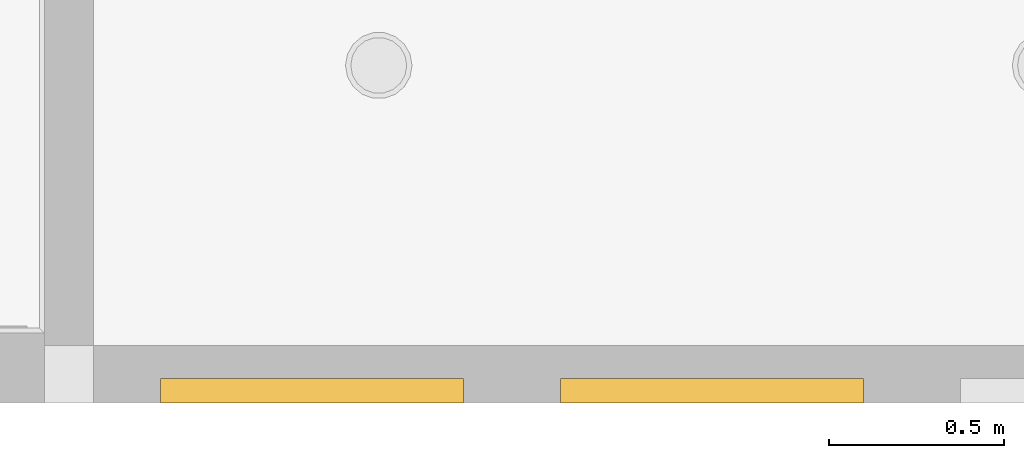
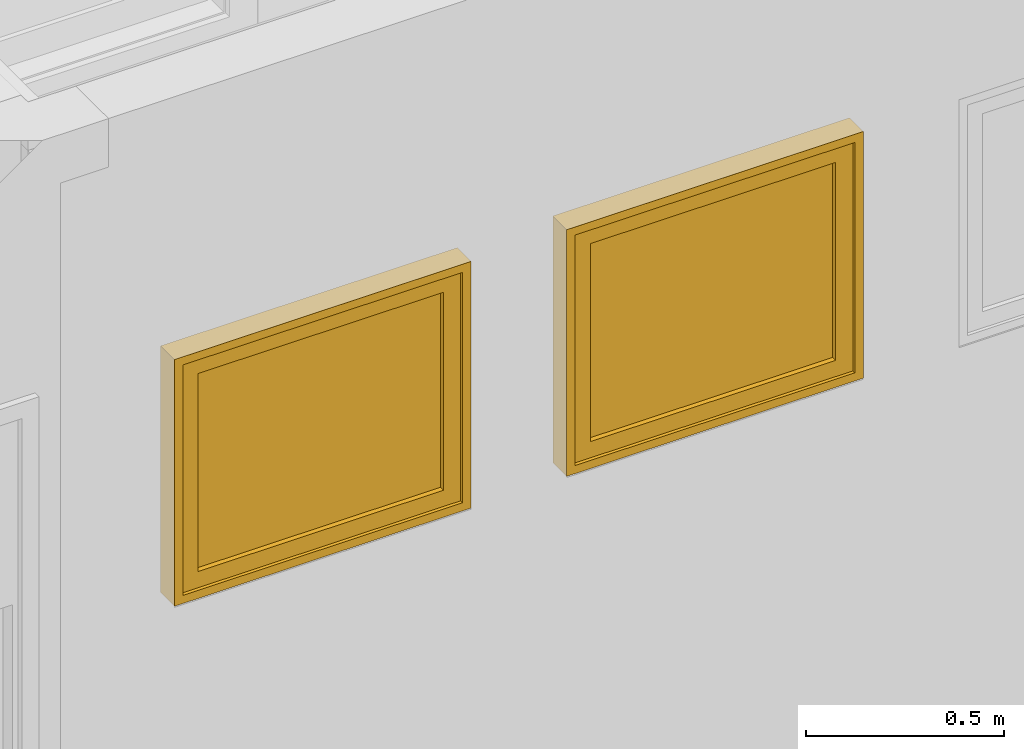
# One storey, part 31 of 77: 2 windows.
"""IFC2X3 building model written with IfcOpenShell, lengths in inches."""

from ifc_helpers import new_model, entity, si_unit, converted_unit, derived_unit, money_unit, direction, frame, origin_with_axes, place, context, subcontext, project, spatial, open_shell, faceted_brep, surface_model, source, transform, mapped, type_object, element, save


model = new_model("IFC2X3")

# Units and contexts
model_context = context("Model", 3, precision=0.000393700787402, world=origin_with_axes(), true_north=direction((0.0, 1.0)))
body_context = subcontext(model_context, "Body", "Model", "MODEL_VIEW")
ifc_project = project(units=[converted_unit("LENGTHUNIT", "INCH", entity("IfcPositiveLengthMeasure", 0.0254), si_unit("LENGTHUNIT", "METRE"), dimensions=[1, 0, 0, 0, 0, 0, 0]), converted_unit("AREAUNIT", "SQUARE_FOOT", entity("IfcPositiveLengthMeasure", 0.09290304), si_unit("AREAUNIT", "SQUARE_METRE"), dimensions=[2, 0, 0, 0, 0, 0, 0]), si_unit("PLANEANGLEUNIT", "RADIAN"), si_unit("SOLIDANGLEUNIT", "STERADIAN"), money_unit("USD"), converted_unit("TIMEUNIT", "Year", entity("IfcTimeMeasure", 31556926.0), si_unit("TIMEUNIT", "SECOND"), dimensions=[0, 0, 1, 0, 0, 0, 0]), si_unit("MASSUNIT", "GRAM", prefix="KILO"), si_unit("THERMODYNAMICTEMPERATUREUNIT", "DEGREE_CELSIUS"), si_unit("LUMINOUSINTENSITYUNIT", "LUMEN"), si_unit("ENERGYUNIT", "JOULE", prefix="MEGA"), derived_unit("THERMALCONDUCTANCEUNIT", [(si_unit("POWERUNIT", "WATT"), 1), (si_unit("LENGTHUNIT", "METRE"), -1), (si_unit("THERMODYNAMICTEMPERATUREUNIT", "KELVIN"), -1)]), derived_unit("SPECIFICHEATCAPACITYUNIT", [(si_unit("ENERGYUNIT", "JOULE"), 1), (si_unit("MASSUNIT", "GRAM", prefix="KILO"), -1), (si_unit("THERMODYNAMICTEMPERATUREUNIT", "KELVIN"), -1)]), derived_unit("MASSDENSITYUNIT", [(si_unit("MASSUNIT", "GRAM", prefix="KILO"), 1), (si_unit("VOLUMEUNIT", "CUBIC_METRE"), -1)])], contexts=[model_context])

# Site, building, storey
site_placement = place(None, origin_with_axes())
site = spatial("IfcSite", under=ifc_project, at=site_placement, Name="Site", CompositionType="ELEMENT")
building_placement = place(site_placement, origin_with_axes())
building = spatial("IfcBuilding", under=site, at=building_placement, Name="Building", CompositionType="ELEMENT")
storey_placement = place(building_placement, frame((0.0, 0.0, 127.952755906), z_axis=(0.0, 0.0, 1.0), x_axis=(1.0, 0.0, 0.0)))
storey = spatial("IfcBuildingStorey", under=building, at=storey_placement, Name="Second Floor", CompositionType="ELEMENT", Elevation=127.953)

# Windows
window_style = type_object("IfcWindowStyle", Name="Window 25", ConstructionType="NOTDEFINED", OperationType="SINGLE_PANEL", ParameterTakesPrecedence=False, Sizeable=False)
shared_shape = source(origin_with_axes(), body_context, "Body", "SurfaceModel", [
    faceted_brep([(-16.0433070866, 0.0, 27.9527559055), (-17.0275590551, 0.0, 27.9527559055), (-17.0275590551, -2.75590551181, 27.9527559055), (-15.0590551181, -2.75590551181, 27.9527559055), (-15.0590551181, -2.36220472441, 27.9527559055), (-16.0433070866, -2.36220472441, 27.9527559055), (-16.0433070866, 0.0, 1.96850393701), (-17.0275590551, 0.0, 1.96850393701), (-17.0275590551, -2.75590551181, 1.96850393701), (-15.0590551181, -2.75590551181, 1.96850393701), (-15.0590551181, -2.36220472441, 1.96850393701), (-16.0433070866, -2.36220472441, 1.96850393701)], [[[0, 1, 2, 3, 4, 5]], [[6, 7, 1, 0]], [[1, 7, 8, 2]], [[2, 8, 9, 3]], [[4, 3, 9, 10]], [[10, 11, 5, 4]], [[5, 11, 6, 0]], [[11, 10, 9, 8, 7, 6]]]),
    faceted_brep([(15.0590551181, -2.36220472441, 27.9527559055), (15.0590551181, -2.75590551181, 27.9527559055), (17.0275590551, -2.75590551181, 27.9527559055), (17.0275590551, 0.0, 27.9527559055), (16.0433070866, 0.0, 27.9527559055), (16.0433070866, -2.36220472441, 27.9527559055), (15.0590551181, -2.36220472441, 1.96850393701), (15.0590551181, -2.75590551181, 1.96850393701), (17.0275590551, -2.75590551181, 1.96850393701), (17.0275590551, 0.0, 1.96850393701), (16.0433070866, 0.0, 1.96850393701), (16.0433070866, -2.36220472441, 1.96850393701)], [[[0, 1, 2, 3, 4, 5]], [[6, 7, 1, 0]], [[8, 2, 1, 7]], [[9, 3, 2, 8]], [[4, 3, 9, 10]], [[10, 11, 5, 4]], [[5, 11, 6, 0]], [[11, 10, 9, 8, 7, 6]]]),
    faceted_brep([(15.0590551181, -2.36220472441, 1.96850393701), (15.0590551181, -2.75590551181, 1.96850393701), (17.0275590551, -2.75590551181, 1.96850393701), (17.0275590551, 0.0, 1.96850393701), (16.0433070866, 0.0, 1.96850393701), (16.0433070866, -2.36220472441, 1.96850393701), (-15.0590551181, -2.36220472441, 1.96850393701), (-15.0590551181, -2.75590551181, 1.96850393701), (-17.0275590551, -2.75590551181, 1.96850393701), (-17.0275590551, -2.75590551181, 0.0), (17.0275590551, -2.75590551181, 0.0), (17.0275590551, 0.0, 0.0), (-16.0433070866, 0.0, 0.984251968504), (16.0433070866, 0.0, 0.984251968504), (-17.0275590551, 0.0, 0.0), (-17.0275590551, 0.0, 1.96850393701), (-16.0433070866, 0.0, 1.96850393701), (16.0433070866, -2.36220472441, 0.984251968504), (-16.0433070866, -2.36220472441, 0.984251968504), (-16.0433070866, -2.36220472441, 1.96850393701)], [[[0, 1, 2, 3, 4, 5]], [[6, 7, 1, 0]], [[8, 9, 10, 2, 1, 7]], [[11, 3, 2, 10]], [[12, 13, 4, 3, 11, 14, 15, 16]], [[13, 17, 5, 4]], [[5, 17, 18, 19, 6, 0]], [[19, 16, 15, 8, 7, 6]], [[15, 14, 9, 8]], [[14, 11, 10, 9]], [[12, 18, 17, 13]], [[19, 18, 12, 16]]]),
    faceted_brep([(-16.0433070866, 0.0, 27.9527559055), (-17.0275590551, 0.0, 27.9527559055), (-17.0275590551, 0.0, 29.9212598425), (17.0275590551, 0.0, 29.9212598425), (17.0275590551, 0.0, 27.9527559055), (16.0433070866, 0.0, 27.9527559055), (16.0433070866, 0.0, 28.937007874), (-16.0433070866, 0.0, 28.937007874), (-16.0433070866, -2.36220472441, 27.9527559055), (-15.0590551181, -2.36220472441, 27.9527559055), (-15.0590551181, -2.75590551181, 27.9527559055), (-17.0275590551, -2.75590551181, 27.9527559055), (-17.0275590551, -2.75590551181, 29.9212598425), (17.0275590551, -2.75590551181, 29.9212598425), (17.0275590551, -2.75590551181, 27.9527559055), (16.0433070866, -2.36220472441, 27.9527559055), (15.0590551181, -2.75590551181, 27.9527559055), (15.0590551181, -2.36220472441, 27.9527559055), (16.0433070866, -2.36220472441, 28.937007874), (-16.0433070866, -2.36220472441, 28.937007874)], [[[0, 1, 2, 3, 4, 5, 6, 7]], [[8, 9, 10, 11, 1, 0]], [[2, 1, 11, 12]], [[3, 2, 12, 13]], [[4, 3, 13, 14]], [[15, 5, 4, 14, 16, 17]], [[5, 15, 18, 6]], [[6, 18, 19, 7]], [[7, 19, 8, 0]], [[17, 9, 8, 19, 18, 15]], [[17, 16, 10, 9]], [[14, 13, 12, 11, 10, 16]]]),
    faceted_brep([(-14.0748031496, -2.36220472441, 26.968503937), (-14.0748031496, -0.393700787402, 26.968503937), (-16.0433070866, -0.393700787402, 26.968503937), (-16.0433070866, -2.36220472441, 26.968503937), (-14.0748031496, -2.36220472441, 2.95275590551), (-14.0748031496, -0.393700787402, 2.95275590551), (-16.0433070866, -0.393700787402, 2.95275590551), (-16.0433070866, -2.36220472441, 2.95275590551)], [[[0, 1, 2, 3]], [[4, 5, 1, 0]], [[1, 5, 6, 2]], [[3, 2, 6, 7]], [[0, 3, 7, 4]], [[7, 6, 5, 4]]]),
    faceted_brep([(14.0748031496, -2.36220472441, 2.95275590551), (14.0748031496, -0.393700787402, 2.95275590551), (16.0433070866, -0.393700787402, 2.95275590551), (16.0433070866, -2.36220472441, 2.95275590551), (14.0748031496, -2.36220472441, 26.968503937), (14.0748031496, -0.393700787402, 26.968503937), (16.0433070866, -0.393700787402, 26.968503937), (16.0433070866, -2.36220472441, 26.968503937)], [[[0, 1, 2, 3]], [[4, 5, 1, 0]], [[1, 5, 6, 2]], [[3, 2, 6, 7]], [[0, 3, 7, 4]], [[7, 6, 5, 4]]]),
    faceted_brep([(16.0433070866, -2.36220472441, 0.984251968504), (16.0433070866, -0.393700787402, 0.984251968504), (16.0433070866, -0.393700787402, 2.95275590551), (16.0433070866, -2.36220472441, 2.95275590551), (-16.0433070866, -2.36220472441, 0.984251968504), (-16.0433070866, -0.393700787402, 0.984251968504), (-16.0433070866, -0.393700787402, 2.95275590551), (-14.0748031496, -0.393700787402, 2.95275590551), (14.0748031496, -0.393700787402, 2.95275590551), (14.0748031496, -2.36220472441, 2.95275590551), (-14.0748031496, -2.36220472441, 2.95275590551), (-16.0433070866, -2.36220472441, 2.95275590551)], [[[0, 1, 2, 3]], [[4, 5, 1, 0]], [[1, 5, 6, 7, 8, 2]], [[3, 2, 8, 9]], [[0, 3, 9, 10, 11, 4]], [[11, 6, 5, 4]], [[10, 7, 6, 11]], [[9, 8, 7, 10]]]),
    faceted_brep([(-16.0433070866, -2.36220472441, 28.937007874), (-16.0433070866, -0.393700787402, 28.937007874), (-16.0433070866, -0.393700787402, 26.968503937), (-16.0433070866, -2.36220472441, 26.968503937), (16.0433070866, -2.36220472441, 28.937007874), (16.0433070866, -0.393700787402, 28.937007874), (16.0433070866, -0.393700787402, 26.968503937), (14.0748031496, -0.393700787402, 26.968503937), (-14.0748031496, -0.393700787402, 26.968503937), (-14.0748031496, -2.36220472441, 26.968503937), (14.0748031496, -2.36220472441, 26.968503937), (16.0433070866, -2.36220472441, 26.968503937)], [[[0, 1, 2, 3]], [[4, 5, 1, 0]], [[1, 5, 6, 7, 8, 2]], [[3, 2, 8, 9]], [[0, 3, 9, 10, 11, 4]], [[11, 6, 5, 4]], [[10, 7, 6, 11]], [[9, 8, 7, 10]]]),
    surface_model("IfcShellBasedSurfaceModel", [(-14.0748031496, -1.77165354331, 2.95275590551), (14.0748031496, -1.77165354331, 2.95275590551), (14.0748031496, -1.77165354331, 26.968503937), (-14.0748031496, -1.77165354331, 26.968503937)], [open_shell([[[0, 1, 2, 3]]])]),
    surface_model("IfcShellBasedSurfaceModel", [(-14.0748031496, -0.984251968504, 2.95275590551), (-14.0748031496, -0.984251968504, 26.968503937), (14.0748031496, -0.984251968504, 26.968503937), (14.0748031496, -0.984251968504, 2.95275590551)], [open_shell([[[0, 1, 2, 3]]])]),
])
for number, where, z_axis, x_axis, name in (
    (1, (953.01720245, 19.4071723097, 64.1732283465), (0.0, 0.0, 1.0), (-1.0, 0.0, 0.0), "W-15"),
    (2, (908.01720237, 19.4071723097, 64.1732283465), (0.0, 0.0, 1.0), (-1.0, 0.0, 0.0), "W-16"),
):
    element("IfcWindow", number, at=place(storey_placement, frame(where, z_axis=z_axis, x_axis=x_axis)), inside=storey, type_object=window_style, Name=name, OverallHeight=29.9213, OverallWidth=34.0551, context=body_context, shape_type="MappedRepresentation", body=[
        mapped(shared_shape, transform((17.0275590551, 6.5, 0.0))),
    ])

save(model, "model.ifc")
